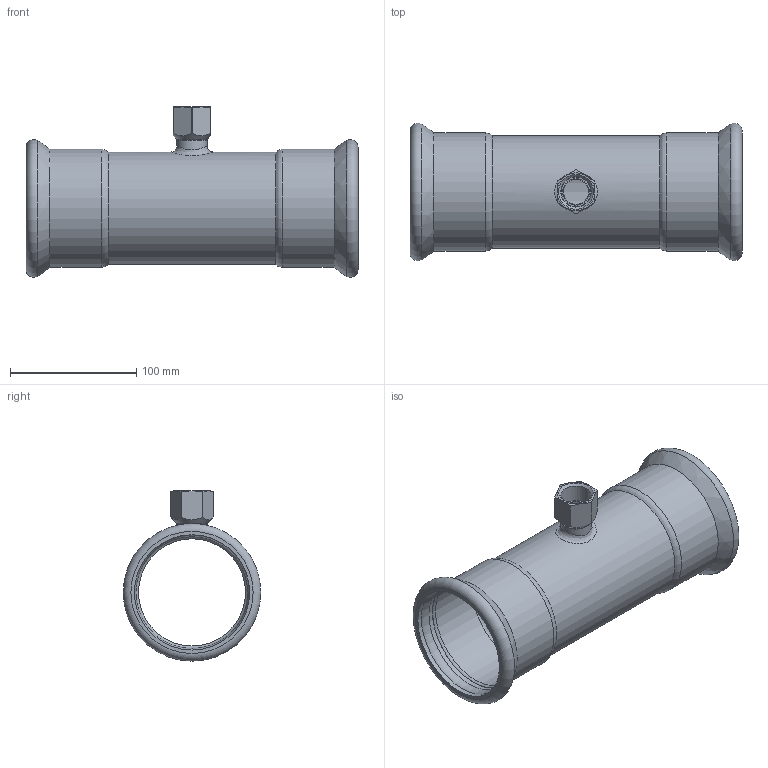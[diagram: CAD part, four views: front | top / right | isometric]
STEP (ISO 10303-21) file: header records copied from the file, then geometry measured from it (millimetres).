
FILE_DESCRIPTION(/* description */ ('TEE CON DERIVAZIONE FILETTATA FEMMINA 88,9x3/4"x88,9'),/* implementation_level */ '2;1');
FILE_NAME(/* name */ 'T:\A_ARTICOLI\ARTICOLI PRODOTTI_WEB\Articoli_STEELPRES_WEB\Temporary Step\389304088_Steelpres.ipt.step',/* time_stamp */ '2016-01-20T11:57:04+01:00',/* author */ ('Ghirlinghelli Diego'),/* organization */ (''),/* preprocessor_version */ 'ST-DEVELOPER v15.2',/* originating_system */ 'Autodesk Inventor 2014',/* authorisation */ 'R.M. S.p.A. si riserva a termini di legge la proprietà del presente disegno con divieto di riprodurlo o comunicarlo a terzi senza sua autorizzazione scritta');
FILE_SCHEMA (('AUTOMOTIVE_DESIGN { 1 0 10303 214 3 1 1 }'));
Length unit declared in the file: millimetre
Products named in the file (1): 389304088_Steelpres
Bounding box: 263 x 108.99 x 134.94 mm (x, y, z)
Volume: 214180.1 mm3; surface area: 160828.4 mm2
Topology: 1 solids, 1 shells, 58 faces, 139 edges, 86 vertices
Faces by surface type: cylinder 21, torus 11, cone 11, plane 11, bspline 4
Full cylindrical faces by diameter (mm): 20 x1, 21 x1, 23.48 x1, 24 x1, 24.117 x1, 84.9 x1, 88.9 x1, 89.5 x2, 91.3 x4, 93.5 x2
Entity records: 1798 total; most frequent: CARTESIAN_POINT 623, DIRECTION 242, ORIENTED_EDGE 192, AXIS2_PLACEMENT_3D 115, EDGE_LOOP 96, EDGE_CURVE 96, VERTEX_POINT 74, CIRCLE 60
